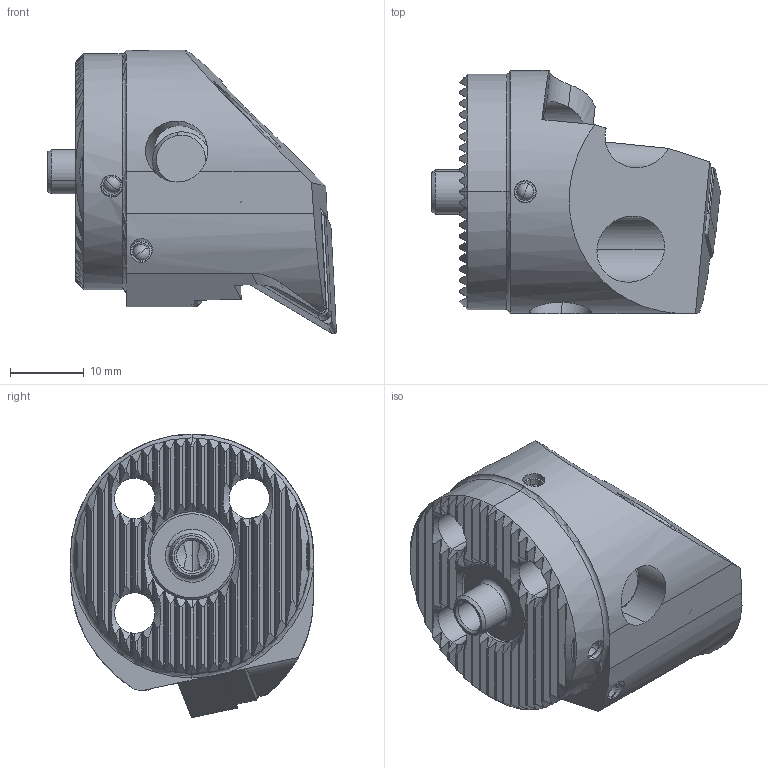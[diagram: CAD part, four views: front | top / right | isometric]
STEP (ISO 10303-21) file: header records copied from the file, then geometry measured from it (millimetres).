
FILE_DESCRIPTION (( 'STEP AP214' ), '1' );
FILE_NAME ('WK2.PDF.RUB.035.STEP', '2020-09-16T12:23:49', ( '' ), ( '' ), 'SwSTEP 2.0', 'SolidWorks 2017', '' );
FILE_SCHEMA (( 'AUTOMOTIVE_DESIGN' ));
Length unit declared in the file: millimetre
Products named in the file (10): WK2.PDF.RUB.035; KVT_MB_600_030; WCD-ER4.101.017_A; DNMG150604; WDF-ER2.101.003_A; WCD-ER1.101.000; WKX-ER1.004.005_A_PreviewCfg; WDF-ER3.101.000_A; WK2-ER1.001.012_A_Fertigbearbeitung; WK2-PDF.RUB.035_A
Assembly tree (12 placements, depth 2):
  WK2.PDF.RUB.035
    WK2-PDF.RUB.035_A
    KVT_MB_600_030  x3
    WDF-ER3.101.000_A
    DNMG150604
    WDF-ER2.101.003_A
    WCD-ER4.101.017_A
    WCD-ER1.101.000
    WKX-ER1.004.005_A_PreviewCfg  x2
    WK2-ER1.001.012_A_Fertigbearbeitung
Bounding box: 39.2 x 33 x 38.5 mm (x, y, z)
Volume: 16738.9 mm3; surface area: 11216.7 mm2
Topology: 15 solids, 15 shells, 634 faces, 1665 edges, 1039 vertices
Faces by surface type: plane 241, cylinder 202, cone 153, torus 17, bspline 15, sphere 6
Entity records: 19829 total; most frequent: CARTESIAN_POINT 6296, ORIENTED_EDGE 2948, DIRECTION 2444, EDGE_CURVE 1474, VERTEX_POINT 940, AXIS2_PLACEMENT_3D 924, LINE 596, VECTOR 596
